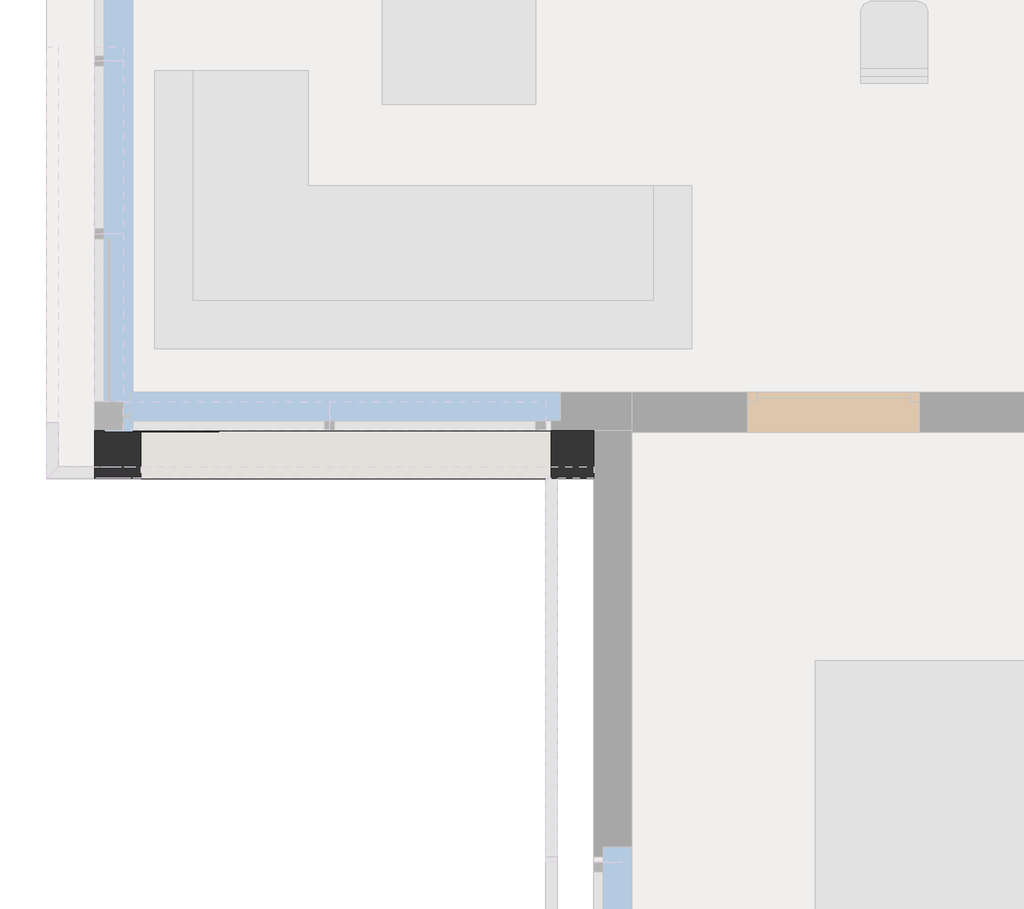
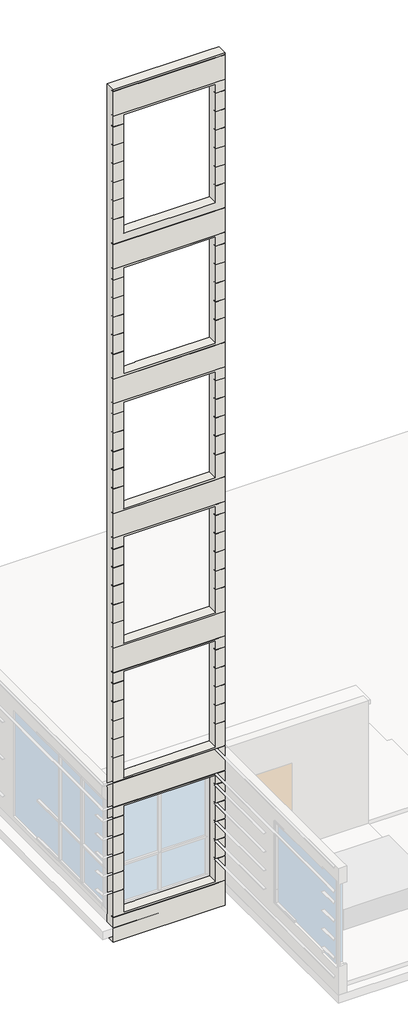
# One storey, part 2 of 14: 1 wall.
"""IFC4 building model written with IfcOpenShell, lengths in millimetres."""

from ifc_helpers import new_model, si_unit, origin, place, context, project, spatial, faceted_brep, element, save

model = new_model("IFC4")

# Units and contexts
model_context = context("Model", 3, world=origin())
ifc_project = project(units=[si_unit("LENGTHUNIT", "METRE", prefix="MILLI")], contexts=[model_context])

# Site, building, storey
site = spatial("IfcSite", under=ifc_project)
building = spatial("IfcBuilding", under=site)
storey = spatial("IfcBuildingStorey", under=building, Name="03_+7,700_Ж", Elevation=4500.0)

# Wall
placement = place(None, origin())
element("IfcWall", 1, ObjectType="BW_THR_EXT_180+60+10=250_эркер минплита под вентфасад и КГ-------", at=placement, inside=storey, context=model_context, shape_type="Brep", body=[
    faceted_brep([(126380.0000001, 115949.9999987, 3850.0), (128790.0000001, 115949.9999987, 3850.0), (128980.0000001, 115949.9999987, 3850.0), (128980.0000001, 115949.9999987, 4455.0), (128790.0000001, 115949.9999987, 4455.0), (128730.0000001, 115949.9999987, 4455.0), (126380.0000001, 115949.9999987, 4455.0), (128980.0000001, 115949.9999987, 24750.0), (128730.0000001, 115949.9999987, 24750.0), (126380.0000001, 115949.9999987, 24750.0), (126380.0000001, 115949.9999987, 24710.0), (128730.0000001, 115949.9999987, 24710.0), (128790.0000001, 115949.9999987, 24710.0), (128980.0000001, 115949.9999987, 24710.0), (126380.0000001, 115949.9999987, 7760.0), (128730.0000001, 115949.9999987, 7760.0), (128790.0000001, 115949.9999987, 7760.0), (128980.0000001, 115949.9999987, 7760.0), (128980.0000001, 115949.9999987, 8360.0), (128790.0000001, 115949.9999987, 8360.0), (128760.0000001, 115949.9999987, 8360.0), (128760.0000001, 115949.9999987, 7800.0), (126620.0000001, 115949.9999987, 7800.0), (126620.0000001, 115949.9999987, 8360.0), (126380.0000001, 115949.9999987, 8360.0), (126380.0000001, 115949.9999987, 11060.0), (128730.0000001, 115949.9999987, 11060.0), (128790.0000001, 115949.9999987, 11060.0), (128980.0000001, 115949.9999987, 11060.0), (128980.0000001, 115949.9999987, 11660.0), (128790.0000001, 115949.9999987, 11660.0), (128760.0000001, 115949.9999987, 11660.0), (128760.0000001, 115949.9999987, 11100.0), (126620.0000001, 115949.9999987, 11100.0), (126620.0000001, 115949.9999987, 11660.0), (126380.0000001, 115949.9999987, 11660.0), (126380.0000001, 115949.9999987, 14360.0), (128730.0000001, 115949.9999987, 14360.0), (128790.0000001, 115949.9999987, 14360.0), (128980.0000001, 115949.9999987, 14360.0), (128980.0000001, 115949.9999987, 14960.0), (128790.0000001, 115949.9999987, 14960.0), (128760.0000001, 115949.9999987, 14960.0), (128760.0000001, 115949.9999987, 14400.0), (126620.0000001, 115949.9999987, 14400.0), (126620.0000001, 115949.9999987, 14960.0), (126380.0000001, 115949.9999987, 14960.0), (126380.0000001, 115949.9999987, 17660.0), (128730.0000001, 115949.9999987, 17660.0), (128790.0000001, 115949.9999987, 17660.0), (128980.0000001, 115949.9999987, 17660.0), (128980.0000001, 115949.9999987, 18260.0), (128790.0000001, 115949.9999987, 18260.0), (128760.0000001, 115949.9999987, 18260.0), (128760.0000001, 115949.9999987, 17700.0), (126620.0000001, 115949.9999987, 17700.0), (126620.0000001, 115949.9999987, 18260.0), (126380.0000001, 115949.9999987, 18260.0), (126380.0000001, 115949.9999987, 20960.0), (128730.0000001, 115949.9999987, 20960.0), (128790.0000001, 115949.9999987, 20960.0), (128980.0000001, 115949.9999987, 20960.0), (128980.0000001, 115949.9999987, 21560.0), (128790.0000001, 115949.9999987, 21560.0), (128760.0000001, 115949.9999987, 21560.0), (128760.0000001, 115949.9999987, 21150.0), (126620.0000001, 115949.9999987, 21150.0), (126620.0000001, 115949.9999987, 21560.0), (126380.0000001, 115949.9999987, 21560.0), (128980.0000001, 115949.9999987, 24705.0), (128790.0000001, 115949.9999987, 24705.0), (128730.0000001, 115949.9999987, 24705.0), (126380.0000001, 115949.9999987, 24705.0), (126380.0000001, 115949.9999987, 24105.0), (128730.0000001, 115949.9999987, 24105.0), (128790.0000001, 115949.9999987, 24105.0), (128980.0000001, 115949.9999987, 24105.0), (128980.0000001, 115949.9999987, 24100.0), (128790.0000001, 115949.9999987, 24100.0), (128730.0000001, 115949.9999987, 24100.0), (126380.0000001, 115949.9999987, 24100.0), (126380.0000001, 115949.9999987, 23840.0), (126620.0000001, 115949.9999987, 23840.0), (126620.0000001, 115949.9999987, 24060.0), (128760.0000001, 115949.9999987, 24060.0), (128760.0000001, 115949.9999987, 23840.0), (128790.0000001, 115949.9999987, 23840.0), (128980.0000001, 115949.9999987, 23840.0), (128980.0000001, 115949.9999987, 20955.0), (128790.0000001, 115949.9999987, 20955.0), (128730.0000001, 115949.9999987, 20955.0), (126380.0000001, 115949.9999987, 20955.0), (126380.0000001, 115949.9999987, 20355.0), (128730.0000001, 115949.9999987, 20355.0), (128790.0000001, 115949.9999987, 20355.0), (128980.0000001, 115949.9999987, 20355.0), (128980.0000001, 115949.9999987, 20350.0), (128790.0000001, 115949.9999987, 20350.0), (128730.0000001, 115949.9999987, 20350.0), (126380.0000001, 115949.9999987, 20350.0), (126380.0000001, 115949.9999987, 20087.0), (126620.0000001, 115949.9999987, 20087.0), (126620.0000001, 115949.9999987, 20310.0), (128760.0000001, 115949.9999987, 20310.0), (128760.0000001, 115949.9999987, 20087.0), (128980.0000001, 115949.9999987, 20087.0), (128980.0000001, 115949.9999987, 17655.0), (128790.0000001, 115949.9999987, 17655.0), (128730.0000001, 115949.9999987, 17655.0), (126380.0000001, 115949.9999987, 17655.0), (126380.0000001, 115949.9999987, 17055.0), (128730.0000001, 115949.9999987, 17055.0), (128790.0000001, 115949.9999987, 17055.0), (128980.0000001, 115949.9999987, 17055.0), (128980.0000001, 115949.9999987, 17050.0), (128790.0000001, 115949.9999987, 17050.0), (128730.0000001, 115949.9999987, 17050.0), (126380.0000001, 115949.9999987, 17050.0), (126380.0000001, 115949.9999987, 16785.0), (126620.0000001, 115949.9999987, 16785.0), (126620.0000001, 115949.9999987, 17010.0), (128760.0000001, 115949.9999987, 17010.0), (128760.0000001, 115949.9999987, 16785.0), (128790.0000001, 115949.9999987, 16785.0), (128980.0000001, 115949.9999987, 16785.0), (128980.0000001, 115949.9999987, 14355.0), (128790.0000001, 115949.9999987, 14355.0), (128730.0000001, 115949.9999987, 14355.0), (126380.0000001, 115949.9999987, 14355.0), (126380.0000001, 115949.9999987, 13755.0), (128730.0000001, 115949.9999987, 13755.0), (128790.0000001, 115949.9999987, 13755.0), (128980.0000001, 115949.9999987, 13755.0), (128980.0000001, 115949.9999987, 13750.0), (128790.0000001, 115949.9999987, 13750.0), (128730.0000001, 115949.9999987, 13750.0), (126380.0000001, 115949.9999987, 13750.0), (126380.0000001, 115949.9999987, 13485.0), (126620.0000001, 115949.9999987, 13485.0), (126620.0000001, 115949.9999987, 13710.0), (128760.0000001, 115949.9999987, 13710.0), (128760.0000001, 115949.9999987, 13485.0), (128790.0000001, 115949.9999987, 13485.0), (128980.0000001, 115949.9999987, 13485.0), (128980.0000001, 115949.9999987, 11055.0), (128790.0000001, 115949.9999987, 11055.0), (128730.0000001, 115949.9999987, 11055.0), (126380.0000001, 115949.9999987, 11055.0), (126380.0000001, 115949.9999987, 10455.0), (128730.0000001, 115949.9999987, 10455.0), (128790.0000001, 115949.9999987, 10455.0), (128980.0000001, 115949.9999987, 10455.0), (128980.0000001, 115949.9999987, 10450.0), (128790.0000001, 115949.9999987, 10450.0), (128730.0000001, 115949.9999987, 10450.0), (126380.0000001, 115949.9999987, 10450.0), (126380.0000001, 115949.9999987, 10185.0), (126620.0000001, 115949.9999987, 10185.0), (126620.0000001, 115949.9999987, 10410.0), (128760.0000001, 115949.9999987, 10410.0), (128760.0000001, 115949.9999987, 10185.0), (128790.0000001, 115949.9999987, 10185.0), (128980.0000001, 115949.9999987, 10185.0), (128980.0000001, 115949.9999987, 7755.0), (128790.0000001, 115949.9999987, 7755.0), (128730.0000001, 115949.9999987, 7755.0), (126380.0000001, 115949.9999987, 7755.0), (126380.0000001, 115949.9999987, 7155.0), (128730.0000001, 115949.9999987, 7155.0), (128790.0000001, 115949.9999987, 7155.0), (128980.0000001, 115949.9999987, 7155.0), (128980.0000001, 115949.9999987, 7150.0), (128790.0000001, 115949.9999987, 7150.0), (128730.0000001, 115949.9999987, 7150.0), (126380.0000001, 115949.9999987, 7150.0), (126380.0000001, 115949.9999987, 6885.0), (126620.0000001, 115949.9999987, 6885.0), (126620.0000001, 115949.9999987, 7110.0), (128760.0000001, 115949.9999987, 7110.0), (128760.0000001, 115949.9999987, 6885.0), (128790.0000001, 115949.9999987, 6885.0), (128980.0000001, 115949.9999987, 6885.0), (128760.0000001, 115949.9999987, 4500.0), (126620.0000001, 115949.9999987, 4500.0), (126620.0000001, 115949.9999987, 5060.0), (126380.0000001, 115949.9999987, 5060.0), (126380.0000001, 115949.9999987, 4460.0), (128730.0000001, 115949.9999987, 4460.0), (128790.0000001, 115949.9999987, 4460.0), (128980.0000001, 115949.9999987, 4460.0), (128980.0000001, 115949.9999987, 5060.0), (128790.0000001, 115949.9999987, 5060.0), (128760.0000001, 115949.9999987, 5060.0), (126620.0000001, 115949.9999987, 23835.0), (126380.0000001, 115949.9999987, 23835.0), (126380.0000001, 115949.9999987, 23385.0), (126620.0000001, 115949.9999987, 23385.0), (126620.0000001, 115949.9999987, 23380.0), (126380.0000001, 115949.9999987, 23380.0), (126380.0000001, 115949.9999987, 22930.0), (126620.0000001, 115949.9999987, 22930.0), (126620.0000001, 115949.9999987, 22925.0), (126380.0000001, 115949.9999987, 22925.0), (126380.0000001, 115949.9999987, 22475.0), (126620.0000001, 115949.9999987, 22475.0), (126620.0000001, 115949.9999987, 22470.0), (126380.0000001, 115949.9999987, 22470.0), (126380.0000001, 115949.9999987, 22020.0), (126620.0000001, 115949.9999987, 22020.0), (126620.0000001, 115949.9999987, 22015.0), (126380.0000001, 115949.9999987, 22015.0), (126380.0000001, 115949.9999987, 21565.0), (126620.0000001, 115949.9999987, 21565.0), (128980.0000001, 115949.9999987, 20082.0), (128760.0000001, 115949.9999987, 20082.0), (128760.0000001, 115949.9999987, 19630.0), (128790.0000001, 115949.9999987, 19630.0), (128980.0000001, 115949.9999987, 19630.0), (126620.0000001, 115949.9999987, 20082.0), (126380.0000001, 115949.9999987, 20082.0), (126380.0000001, 115949.9999987, 19630.0), (126620.0000001, 115949.9999987, 19630.0), (126620.0000001, 115949.9999987, 19625.0), (126380.0000001, 115949.9999987, 19625.0), (126380.0000001, 115949.9999987, 19175.0), (126620.0000001, 115949.9999987, 19175.0), (126620.0000001, 115949.9999987, 19170.0), (126380.0000001, 115949.9999987, 19170.0), (126380.0000001, 115949.9999987, 18720.0), (126620.0000001, 115949.9999987, 18720.0), (126620.0000001, 115949.9999987, 18715.0), (126380.0000001, 115949.9999987, 18715.0), (126380.0000001, 115949.9999987, 18265.0), (126620.0000001, 115949.9999987, 18265.0), (126620.0000001, 115949.9999987, 16780.0), (126380.0000001, 115949.9999987, 16780.0), (126380.0000001, 115949.9999987, 16330.0), (126620.0000001, 115949.9999987, 16330.0), (126620.0000001, 115949.9999987, 16325.0), (126380.0000001, 115949.9999987, 16325.0), (126380.0000001, 115949.9999987, 15875.0), (126620.0000001, 115949.9999987, 15875.0), (126620.0000001, 115949.9999987, 15870.0), (126380.0000001, 115949.9999987, 15870.0), (126380.0000001, 115949.9999987, 15420.0), (126620.0000001, 115949.9999987, 15420.0), (126620.0000001, 115949.9999987, 15415.0), (126380.0000001, 115949.9999987, 15415.0), (126380.0000001, 115949.9999987, 14965.0), (126620.0000001, 115949.9999987, 14965.0), (126620.0000001, 115949.9999987, 13480.0), (126380.0000001, 115949.9999987, 13480.0), (126380.0000001, 115949.9999987, 13030.0), (126620.0000001, 115949.9999987, 13030.0), (126620.0000001, 115949.9999987, 13025.0), (126380.0000001, 115949.9999987, 13025.0), (126380.0000001, 115949.9999987, 12575.0), (126620.0000001, 115949.9999987, 12575.0), (126620.0000001, 115949.9999987, 12570.0), (126380.0000001, 115949.9999987, 12570.0), (126380.0000001, 115949.9999987, 12120.0), (126620.0000001, 115949.9999987, 12120.0), (126620.0000001, 115949.9999987, 12115.0), (126380.0000001, 115949.9999987, 12115.0), (126380.0000001, 115949.9999987, 11665.0), (126620.0000001, 115949.9999987, 11665.0), (126620.0000001, 115949.9999987, 10180.0), (126380.0000001, 115949.9999987, 10180.0), (126380.0000001, 115949.9999987, 9730.0), (126620.0000001, 115949.9999987, 9730.0), (126620.0000001, 115949.9999987, 9725.0), (126380.0000001, 115949.9999987, 9725.0), (126380.0000001, 115949.9999987, 9275.0), (126620.0000001, 115949.9999987, 9275.0), (126620.0000001, 115949.9999987, 9270.0), (126380.0000001, 115949.9999987, 9270.0), (126380.0000001, 115949.9999987, 8820.0), (126620.0000001, 115949.9999987, 8820.0), (126620.0000001, 115949.9999987, 8815.0), (126380.0000001, 115949.9999987, 8815.0), (126380.0000001, 115949.9999987, 8365.0), (126620.0000001, 115949.9999987, 8365.0), (126620.0000001, 115949.9999987, 6880.0), (126380.0000001, 115949.9999987, 6880.0), (126380.0000001, 115949.9999987, 6430.0), (126620.0000001, 115949.9999987, 6430.0), (126620.0000001, 115949.9999987, 6425.0), (126380.0000001, 115949.9999987, 6425.0), (126380.0000001, 115949.9999987, 5975.0), (126620.0000001, 115949.9999987, 5975.0), (126620.0000001, 115949.9999987, 5970.0), (126380.0000001, 115949.9999987, 5970.0), (126380.0000001, 115949.9999987, 5520.0), (126620.0000001, 115949.9999987, 5520.0), (126620.0000001, 115949.9999987, 5515.0), (126380.0000001, 115949.9999987, 5515.0), (126380.0000001, 115949.9999987, 5065.0), (126620.0000001, 115949.9999987, 5065.0), (128980.0000001, 115949.9999987, 23835.0), (128790.0000001, 115949.9999987, 23835.0), (128760.0000001, 115949.9999987, 23835.0), (128760.0000001, 115949.9999987, 23385.0), (128790.0000001, 115949.9999987, 23385.0), (128980.0000001, 115949.9999987, 23385.0), (128980.0000001, 115949.9999987, 23380.0), (128790.0000001, 115949.9999987, 23380.0), (128760.0000001, 115949.9999987, 23380.0), (128760.0000001, 115949.9999987, 22930.0), (128790.0000001, 115949.9999987, 22930.0), (128980.0000001, 115949.9999987, 22930.0), (128980.0000001, 115949.9999987, 22925.0), (128790.0000001, 115949.9999987, 22925.0), (128760.0000001, 115949.9999987, 22925.0), (128760.0000001, 115949.9999987, 22475.0), (128790.0000001, 115949.9999987, 22475.0), (128980.0000001, 115949.9999987, 22475.0), (128980.0000001, 115949.9999987, 22470.0), (128790.0000001, 115949.9999987, 22470.0), (128760.0000001, 115949.9999987, 22470.0), (128760.0000001, 115949.9999987, 22020.0), (128790.0000001, 115949.9999987, 22020.0), (128980.0000001, 115949.9999987, 22020.0), (128980.0000001, 115949.9999987, 22015.0), (128790.0000001, 115949.9999987, 22015.0), (128760.0000001, 115949.9999987, 22015.0), (128760.0000001, 115949.9999987, 21565.0), (128790.0000001, 115949.9999987, 21565.0), (128980.0000001, 115949.9999987, 21565.0), (128980.0000001, 115949.9999987, 19625.0), (128790.0000001, 115949.9999987, 19625.0), (128760.0000001, 115949.9999987, 19625.0), (128760.0000001, 115949.9999987, 19175.0), (128790.0000001, 115949.9999987, 19175.0), (128980.0000001, 115949.9999987, 19175.0), (128980.0000001, 115949.9999987, 19170.0), (128790.0000001, 115949.9999987, 19170.0), (128760.0000001, 115949.9999987, 19170.0), (128760.0000001, 115949.9999987, 18720.0), (128790.0000001, 115949.9999987, 18720.0), (128980.0000001, 115949.9999987, 18720.0), (128980.0000001, 115949.9999987, 18715.0), (128790.0000001, 115949.9999987, 18715.0), (128760.0000001, 115949.9999987, 18715.0), (128760.0000001, 115949.9999987, 18265.0), (128790.0000001, 115949.9999987, 18265.0), (128980.0000001, 115949.9999987, 18265.0), (128980.0000001, 115949.9999987, 16780.0), (128790.0000001, 115949.9999987, 16780.0), (128760.0000001, 115949.9999987, 16780.0), (128760.0000001, 115949.9999987, 16330.0), (128790.0000001, 115949.9999987, 16330.0), (128980.0000001, 115949.9999987, 16330.0), (128980.0000001, 115949.9999987, 16325.0), (128790.0000001, 115949.9999987, 16325.0), (128760.0000001, 115949.9999987, 16325.0), (128760.0000001, 115949.9999987, 15875.0), (128790.0000001, 115949.9999987, 15875.0), (128980.0000001, 115949.9999987, 15875.0), (128980.0000001, 115949.9999987, 15870.0), (128790.0000001, 115949.9999987, 15870.0), (128760.0000001, 115949.9999987, 15870.0), (128760.0000001, 115949.9999987, 15420.0), (128790.0000001, 115949.9999987, 15420.0), (128980.0000001, 115949.9999987, 15420.0), (128980.0000001, 115949.9999987, 15415.0), (128790.0000001, 115949.9999987, 15415.0), (128760.0000001, 115949.9999987, 15415.0), (128760.0000001, 115949.9999987, 14965.0), (128790.0000001, 115949.9999987, 14965.0), (128980.0000001, 115949.9999987, 14965.0), (128980.0000001, 115949.9999987, 13480.0), (128790.0000001, 115949.9999987, 13480.0), (128760.0000001, 115949.9999987, 13480.0), (128760.0000001, 115949.9999987, 13030.0), (128790.0000001, 115949.9999987, 13030.0), (128980.0000001, 115949.9999987, 13030.0), (128980.0000001, 115949.9999987, 13025.0), (128790.0000001, 115949.9999987, 13025.0), (128760.0000001, 115949.9999987, 13025.0), (128760.0000001, 115949.9999987, 12575.0), (128790.0000001, 115949.9999987, 12575.0), (128980.0000001, 115949.9999987, 12575.0), (128980.0000001, 115949.9999987, 12570.0), (128790.0000001, 115949.9999987, 12570.0), (128760.0000001, 115949.9999987, 12570.0), (128760.0000001, 115949.9999987, 12120.0), (128790.0000001, 115949.9999987, 12120.0), (128980.0000001, 115949.9999987, 12120.0), (128980.0000001, 115949.9999987, 12115.0), (128790.0000001, 115949.9999987, 12115.0), (128760.0000001, 115949.9999987, 12115.0), (128760.0000001, 115949.9999987, 11665.0), (128790.0000001, 115949.9999987, 11665.0), (128980.0000001, 115949.9999987, 11665.0), (128980.0000001, 115949.9999987, 10180.0), (128790.0000001, 115949.9999987, 10180.0), (128760.0000001, 115949.9999987, 10180.0), (128760.0000001, 115949.9999987, 9730.0), (128790.0000001, 115949.9999987, 9730.0), (128980.0000001, 115949.9999987, 9730.0), (128980.0000001, 115949.9999987, 9725.0), (128790.0000001, 115949.9999987, 9725.0), (128760.0000001, 115949.9999987, 9725.0), (128760.0000001, 115949.9999987, 9275.0), (128790.0000001, 115949.9999987, 9275.0), (128980.0000001, 115949.9999987, 9275.0), (128980.0000001, 115949.9999987, 9270.0), (128790.0000001, 115949.9999987, 9270.0), (128760.0000001, 115949.9999987, 9270.0), (128760.0000001, 115949.9999987, 8820.0), (128790.0000001, 115949.9999987, 8820.0), (128980.0000001, 115949.9999987, 8820.0), (128980.0000001, 115949.9999987, 8815.0), (128790.0000001, 115949.9999987, 8815.0), (128760.0000001, 115949.9999987, 8815.0), (128760.0000001, 115949.9999987, 8365.0), (128790.0000001, 115949.9999987, 8365.0), (128980.0000001, 115949.9999987, 8365.0), (128980.0000001, 115949.9999987, 6880.0), (128790.0000001, 115949.9999987, 6880.0), (128760.0000001, 115949.9999987, 6880.0), (128760.0000001, 115949.9999987, 6430.0), (128790.0000001, 115949.9999987, 6430.0), (128980.0000001, 115949.9999987, 6430.0), (128980.0000001, 115949.9999987, 6425.0), (128790.0000001, 115949.9999987, 6425.0), (128760.0000001, 115949.9999987, 6425.0), (128760.0000001, 115949.9999987, 5975.0), (128790.0000001, 115949.9999987, 5975.0), (128980.0000001, 115949.9999987, 5975.0), (128980.0000001, 115949.9999987, 5970.0), (128790.0000001, 115949.9999987, 5970.0), (128760.0000001, 115949.9999987, 5970.0), (128760.0000001, 115949.9999987, 5520.0), (128790.0000001, 115949.9999987, 5520.0), (128980.0000001, 115949.9999987, 5520.0), (128980.0000001, 115949.9999987, 5515.0), (128790.0000001, 115949.9999987, 5515.0), (128760.0000001, 115949.9999987, 5515.0), (128760.0000001, 115949.9999987, 5065.0), (128790.0000001, 115949.9999987, 5065.0), (128980.0000001, 115949.9999987, 5065.0), (128980.0000001, 116199.9999987, 3850.0), (128790.0000001, 116199.9999987, 3850.0), (126380.0000001, 116199.9999987, 3850.0), (126380.0000001, 116199.9999987, 4400.0), (126380.0000001, 116199.9999987, 7500.0), (126380.0000001, 116199.9999987, 7700.0), (126380.0000001, 116199.9999987, 10800.0), (126380.0000001, 116199.9999987, 11000.0), (126380.0000001, 116199.9999987, 14100.0), (126380.0000001, 116199.9999987, 14300.0), (126380.0000001, 116199.9999987, 17400.0), (126380.0000001, 116199.9999987, 17600.0), (126380.0000001, 116199.9999987, 20700.0), (126380.0000001, 116199.9999987, 20900.0), (126380.0000001, 116199.9999987, 24300.0), (126380.0000001, 116199.9999987, 24750.0), (128730.0000001, 116199.9999987, 24750.0), (128980.0000001, 116199.9999987, 24750.0), (128980.0000001, 116199.9999987, 24500.0), (128980.0000001, 116199.9999987, 4200.0), (128760.0000001, 116199.9999987, 4500.0), (128760.0000001, 116199.9999987, 7110.0), (127030.0000001, 116199.9999987, 7110.0), (127030.0000001, 116199.9999987, 7160.0), (126430.0000001, 116199.9999987, 7160.0), (126430.0000001, 116199.9999987, 4440.0), (127030.0000001, 116199.9999987, 4440.0), (127030.0000001, 116199.9999987, 4500.0), (126430.0000001, 116199.9999987, 10460.0), (126430.0000001, 116199.9999987, 7740.0), (127030.0000001, 116199.9999987, 7740.0), (127030.0000001, 116199.9999987, 7800.0), (128760.0000001, 116199.9999987, 7800.0), (128760.0000001, 116199.9999987, 10410.0), (127030.0000001, 116199.9999987, 10410.0), (127030.0000001, 116199.9999987, 10460.0), (126430.0000001, 116199.9999987, 13760.0), (126430.0000001, 116199.9999987, 11040.0), (127030.0000001, 116199.9999987, 11040.0), (127030.0000001, 116199.9999987, 11100.0), (128760.0000001, 116199.9999987, 11100.0), (128760.0000001, 116199.9999987, 13710.0), (127030.0000001, 116199.9999987, 13710.0), (127030.0000001, 116199.9999987, 13760.0), (126430.0000001, 116199.9999987, 17060.0), (126430.0000001, 116199.9999987, 14340.0), (127030.0000001, 116199.9999987, 14340.0), (127030.0000001, 116199.9999987, 14400.0), (128760.0000001, 116199.9999987, 14400.0), (128760.0000001, 116199.9999987, 17010.0), (127030.0000001, 116199.9999987, 17010.0), (127030.0000001, 116199.9999987, 17060.0), (126430.0000001, 116199.9999987, 20360.0), (126430.0000001, 116199.9999987, 17640.0), (127030.0000001, 116199.9999987, 17640.0), (127030.0000001, 116199.9999987, 17700.0), (128760.0000001, 116199.9999987, 17700.0), (128760.0000001, 116199.9999987, 20310.0), (127030.0000001, 116199.9999987, 20310.0), (127030.0000001, 116199.9999987, 20360.0), (128760.0000001, 116199.9999987, 21150.0), (128760.0000001, 116199.9999987, 24060.0), (127030.0000001, 116199.9999987, 24060.0), (127030.0000001, 116199.9999987, 24110.0), (126430.0000001, 116199.9999987, 24110.0), (126430.0000001, 116199.9999987, 21090.0), (127030.0000001, 116199.9999987, 21090.0), (127030.0000001, 116199.9999987, 21150.0), (128980.0000001, 116074.9999987, 3850.0), (128980.0000001, 116074.9999987, 24750.0), (128980.0000001, 116009.9999987, 24710.0), (128980.0000001, 116009.9999987, 24705.0), (128980.0000001, 116009.9999987, 24105.0), (128980.0000001, 116009.9999987, 24100.0), (128980.0000001, 116009.9999987, 23840.0), (128980.0000001, 116009.9999987, 23835.0), (128980.0000001, 116009.9999987, 23385.0), (128980.0000001, 116009.9999987, 23380.0), (128980.0000001, 116009.9999987, 22930.0), (128980.0000001, 116009.9999987, 22925.0), (128980.0000001, 116009.9999987, 22475.0), (128980.0000001, 116009.9999987, 22470.0), (128980.0000001, 116009.9999987, 22020.0), (128980.0000001, 116009.9999987, 22015.0), (128980.0000001, 116009.9999987, 21565.0), (128980.0000001, 116009.9999987, 21560.0), (128980.0000001, 116009.9999987, 20960.0), (128980.0000001, 116009.9999987, 20955.0), (128980.0000001, 116009.9999987, 20355.0), (128980.0000001, 116009.9999987, 20350.0), (128980.0000001, 116009.9999987, 20087.0), (128980.0000001, 116009.9999987, 20082.0), (128980.0000001, 116009.9999987, 19630.0), (128980.0000001, 116009.9999987, 19625.0), (128980.0000001, 116009.9999987, 19175.0), (128980.0000001, 116009.9999987, 19170.0), (128980.0000001, 116009.9999987, 18720.0), (128980.0000001, 116009.9999987, 18715.0), (128980.0000001, 116009.9999987, 18265.0), (128980.0000001, 116009.9999987, 18260.0), (128980.0000001, 116009.9999987, 17660.0), (128980.0000001, 116009.9999987, 17655.0), (128980.0000001, 116009.9999987, 17055.0), (128980.0000001, 116009.9999987, 17050.0), (128980.0000001, 116009.9999987, 16785.0), (128980.0000001, 116009.9999987, 16780.0), (128980.0000001, 116009.9999987, 16330.0), (128980.0000001, 116009.9999987, 16325.0), (128980.0000001, 116009.9999987, 15875.0), (128980.0000001, 116009.9999987, 15870.0), (128980.0000001, 116009.9999987, 15420.0), (128980.0000001, 116009.9999987, 15415.0), (128980.0000001, 116009.9999987, 14965.0), (128980.0000001, 116009.9999987, 14960.0), (128980.0000001, 116009.9999987, 14360.0), (128980.0000001, 116009.9999987, 14355.0), (128980.0000001, 116009.9999987, 13755.0), (128980.0000001, 116009.9999987, 13750.0), (128980.0000001, 116009.9999987, 13485.0), (128980.0000001, 116009.9999987, 13480.0), (128980.0000001, 116009.9999987, 13030.0), (128980.0000001, 116009.9999987, 13025.0), (128980.0000001, 116009.9999987, 12575.0), (128980.0000001, 116009.9999987, 12570.0), (128980.0000001, 116009.9999987, 12120.0), (128980.0000001, 116009.9999987, 12115.0), (128980.0000001, 116009.9999987, 11665.0), (128980.0000001, 116009.9999987, 11660.0), (128980.0000001, 116009.9999987, 11060.0), (128980.0000001, 116009.9999987, 11055.0), (128980.0000001, 116009.9999987, 10455.0), (128980.0000001, 116009.9999987, 10450.0), (128980.0000001, 116009.9999987, 10185.0), (128980.0000001, 116009.9999987, 10180.0), (128980.0000001, 116009.9999987, 9730.0), (128980.0000001, 116009.9999987, 9725.0), (128980.0000001, 116009.9999987, 9275.0), (128980.0000001, 116009.9999987, 9270.0), (128980.0000001, 116009.9999987, 8820.0), (128980.0000001, 116009.9999987, 8815.0), (128980.0000001, 116009.9999987, 8365.0), (128980.0000001, 116009.9999987, 8360.0), (128980.0000001, 116009.9999987, 7760.0), (128980.0000001, 116009.9999987, 7755.0), (128980.0000001, 116009.9999987, 7155.0), (128980.0000001, 116009.9999987, 7150.0), (128980.0000001, 116009.9999987, 6885.0), (128980.0000001, 116009.9999987, 6880.0), (128980.0000001, 116009.9999987, 6430.0), (128980.0000001, 116009.9999987, 6425.0), (128980.0000001, 116009.9999987, 5975.0), (128980.0000001, 116009.9999987, 5970.0), (128980.0000001, 116009.9999987, 5520.0), (128980.0000001, 116009.9999987, 5515.0), (128980.0000001, 116009.9999987, 5065.0), (128980.0000001, 116009.9999987, 5060.0), (128980.0000001, 116009.9999987, 4460.0), (128980.0000001, 116009.9999987, 4455.0), (126380.0000001, 116009.9999987, 4455.0), (126380.0000001, 116009.9999987, 4460.0), (126380.0000001, 116009.9999987, 5060.0), (126380.0000001, 116009.9999987, 5065.0), (126380.0000001, 116009.9999987, 5515.0), (126380.0000001, 116009.9999987, 5520.0), (126380.0000001, 116009.9999987, 5970.0), (126380.0000001, 116009.9999987, 5975.0), (126380.0000001, 116009.9999987, 6425.0), (126380.0000001, 116009.9999987, 6430.0), (126380.0000001, 116009.9999987, 6880.0), (126380.0000001, 116009.9999987, 6885.0), (126380.0000001, 116009.9999987, 7150.0), (126380.0000001, 116009.9999987, 7155.0), (126380.0000001, 116009.9999987, 7755.0), (126380.0000001, 116009.9999987, 7760.0), (126380.0000001, 116009.9999987, 8360.0), (126380.0000001, 116009.9999987, 8365.0), (126380.0000001, 116009.9999987, 8815.0), (126380.0000001, 116009.9999987, 8820.0), (126380.0000001, 116009.9999987, 9270.0), (126380.0000001, 116009.9999987, 9275.0), (126380.0000001, 116009.9999987, 9725.0), (126380.0000001, 116009.9999987, 9730.0), (126380.0000001, 116009.9999987, 10180.0), (126380.0000001, 116009.9999987, 10185.0), (126380.0000001, 116009.9999987, 10450.0), (126380.0000001, 116009.9999987, 10455.0), (126380.0000001, 116009.9999987, 11055.0), (126380.0000001, 116009.9999987, 11060.0), (126380.0000001, 116009.9999987, 11660.0), (126380.0000001, 116009.9999987, 11665.0), (126380.0000001, 116009.9999987, 12115.0), (126380.0000001, 116009.9999987, 12120.0), (126380.0000001, 116009.9999987, 12570.0), (126380.0000001, 116009.9999987, 12575.0), (126380.0000001, 116009.9999987, 13025.0), (126380.0000001, 116009.9999987, 13030.0), (126380.0000001, 116009.9999987, 13480.0), (126380.0000001, 116009.9999987, 13485.0), (126380.0000001, 116009.9999987, 13750.0), (126380.0000001, 116009.9999987, 13755.0), (126380.0000001, 116009.9999987, 14355.0), (126380.0000001, 116009.9999987, 14360.0), (126380.0000001, 116009.9999987, 14960.0), (126380.0000001, 116009.9999987, 14965.0), (126380.0000001, 116009.9999987, 15415.0), (126380.0000001, 116009.9999987, 15420.0), (126380.0000001, 116009.9999987, 15870.0), (126380.0000001, 116009.9999987, 15875.0), (126380.0000001, 116009.9999987, 16325.0), (126380.0000001, 116009.9999987, 16330.0), (126380.0000001, 116009.9999987, 16780.0), (126380.0000001, 116009.9999987, 16785.0), (126380.0000001, 116009.9999987, 17050.0), (126380.0000001, 116009.9999987, 17055.0), (126380.0000001, 116009.9999987, 17655.0), (126380.0000001, 116009.9999987, 17660.0), (126380.0000001, 116009.9999987, 18260.0), (126380.0000001, 116009.9999987, 18265.0), (126380.0000001, 116009.9999987, 18715.0), (126380.0000001, 116009.9999987, 18720.0), (126380.0000001, 116009.9999987, 19170.0), (126380.0000001, 116009.9999987, 19175.0), (126380.0000001, 116009.9999987, 19625.0), (126380.0000001, 116009.9999987, 19630.0), (126380.0000001, 116009.9999987, 20082.0), (126380.0000001, 116009.9999987, 20087.0), (126380.0000001, 116009.9999987, 20350.0), (126380.0000001, 116009.9999987, 20355.0), (126380.0000001, 116009.9999987, 20955.0), (126380.0000001, 116009.9999987, 20960.0), (126380.0000001, 116009.9999987, 21560.0), (126380.0000001, 116009.9999987, 21565.0), (126380.0000001, 116009.9999987, 22015.0), (126380.0000001, 116009.9999987, 22020.0), (126380.0000001, 116009.9999987, 22470.0), (126380.0000001, 116009.9999987, 22475.0), (126380.0000001, 116009.9999987, 22925.0), (126380.0000001, 116009.9999987, 22930.0), (126380.0000001, 116009.9999987, 23380.0), (126380.0000001, 116009.9999987, 23385.0), (126380.0000001, 116009.9999987, 23835.0), (126380.0000001, 116009.9999987, 23840.0), (126380.0000001, 116009.9999987, 24100.0), (126380.0000001, 116009.9999987, 24105.0), (126380.0000001, 116009.9999987, 24705.0), (126380.0000001, 116009.9999987, 24710.0), (126620.0000001, 116009.9999987, 23835.0), (126620.0000001, 116009.9999987, 23840.0), (126620.0000001, 116009.9999987, 23385.0), (126620.0000001, 116009.9999987, 23380.0), (126620.0000001, 116009.9999987, 22930.0), (126620.0000001, 116009.9999987, 22925.0), (126620.0000001, 116009.9999987, 22475.0), (126620.0000001, 116009.9999987, 22470.0), (126620.0000001, 116009.9999987, 22020.0), (126620.0000001, 116009.9999987, 22015.0), (126620.0000001, 116009.9999987, 21565.0), (126620.0000001, 116009.9999987, 21560.0), (126620.0000001, 116009.9999987, 20082.0), (126620.0000001, 116009.9999987, 20087.0), (126620.0000001, 116009.9999987, 19625.0), (126620.0000001, 116009.9999987, 19630.0), (126620.0000001, 116009.9999987, 19170.0), (126620.0000001, 116009.9999987, 19175.0), (126620.0000001, 116009.9999987, 18715.0), (126620.0000001, 116009.9999987, 18720.0), (126620.0000001, 116009.9999987, 18260.0), (126620.0000001, 116009.9999987, 18265.0), (126620.0000001, 116009.9999987, 16780.0), (126620.0000001, 116009.9999987, 16785.0), (126620.0000001, 116009.9999987, 16325.0), (126620.0000001, 116009.9999987, 16330.0), (126620.0000001, 116009.9999987, 15870.0), (126620.0000001, 116009.9999987, 15875.0), (126620.0000001, 116009.9999987, 15415.0), (126620.0000001, 116009.9999987, 15420.0), (126620.0000001, 116009.9999987, 14960.0), (126620.0000001, 116009.9999987, 14965.0), (126620.0000001, 116009.9999987, 13480.0), (126620.0000001, 116009.9999987, 13485.0), (126620.0000001, 116009.9999987, 13025.0), (126620.0000001, 116009.9999987, 13030.0), (126620.0000001, 116009.9999987, 12570.0), (126620.0000001, 116009.9999987, 12575.0), (126620.0000001, 116009.9999987, 12115.0), (126620.0000001, 116009.9999987, 12120.0), (126620.0000001, 116009.9999987, 11660.0), (126620.0000001, 116009.9999987, 11665.0), (126620.0000001, 116009.9999987, 10180.0), (126620.0000001, 116009.9999987, 10185.0), (126620.0000001, 116009.9999987, 9725.0), (126620.0000001, 116009.9999987, 9730.0), (126620.0000001, 116009.9999987, 9270.0), (126620.0000001, 116009.9999987, 9275.0), (126620.0000001, 116009.9999987, 8815.0), (126620.0000001, 116009.9999987, 8820.0), (126620.0000001, 116009.9999987, 8360.0), (126620.0000001, 116009.9999987, 8365.0), (126620.0000001, 116009.9999987, 6880.0), (126620.0000001, 116009.9999987, 6885.0), (126620.0000001, 116009.9999987, 6425.0), (126620.0000001, 116009.9999987, 6430.0), (126620.0000001, 116009.9999987, 5970.0), (126620.0000001, 116009.9999987, 5975.0), (126620.0000001, 116009.9999987, 5515.0), (126620.0000001, 116009.9999987, 5520.0), (126620.0000001, 116009.9999987, 5060.0), (126620.0000001, 116009.9999987, 5065.0), (126620.0000001, 116189.9999987, 7110.0), (127030.0000001, 116189.9999987, 7110.0), (128760.0000001, 116009.9999987, 5060.0), (128760.0000001, 116009.9999987, 5065.0), (128760.0000001, 116009.9999987, 5515.0), (128760.0000001, 116009.9999987, 5520.0), (128760.0000001, 116009.9999987, 5970.0), (128760.0000001, 116009.9999987, 5975.0), (128760.0000001, 116009.9999987, 6425.0), (128760.0000001, 116009.9999987, 6430.0), (128760.0000001, 116009.9999987, 6880.0), (128760.0000001, 116009.9999987, 6885.0), (127030.0000001, 116189.9999987, 4500.0), (126620.0000001, 116189.9999987, 4500.0), (127030.0000001, 116189.9999987, 7160.0), (127030.0000001, 116189.9999987, 4440.0), (126430.0000001, 116189.9999987, 7160.0), (126430.0000001, 116189.9999987, 4440.0), (126620.0000001, 116189.9999987, 24060.0), (127030.0000001, 116189.9999987, 24060.0), (128760.0000001, 116009.9999987, 21560.0), (128760.0000001, 116009.9999987, 21565.0), (128760.0000001, 116009.9999987, 22015.0), (128760.0000001, 116009.9999987, 22020.0), (128760.0000001, 116009.9999987, 22470.0), (128760.0000001, 116009.9999987, 22475.0), (128760.0000001, 116009.9999987, 22925.0), (128760.0000001, 116009.9999987, 22930.0), (128760.0000001, 116009.9999987, 23380.0), (128760.0000001, 116009.9999987, 23385.0), (128760.0000001, 116009.9999987, 23835.0), (128760.0000001, 116009.9999987, 23840.0), (127030.0000001, 116189.9999987, 21150.0), (126620.0000001, 116189.9999987, 21150.0), (127030.0000001, 116189.9999987, 24110.0), (127030.0000001, 116189.9999987, 21090.0), (126430.0000001, 116189.9999987, 24110.0), (126430.0000001, 116189.9999987, 21090.0), (127030.0000001, 116189.9999987, 10460.0), (127030.0000001, 116189.9999987, 10410.0), (127030.0000001, 116189.9999987, 7740.0), (127030.0000001, 116189.9999987, 7800.0), (126430.0000001, 116189.9999987, 10460.0), (126430.0000001, 116189.9999987, 7740.0), (126620.0000001, 116189.9999987, 10410.0), (126620.0000001, 116189.9999987, 7800.0), (128760.0000001, 116009.9999987, 8360.0), (128760.0000001, 116009.9999987, 8365.0), (128760.0000001, 116009.9999987, 8815.0), (128760.0000001, 116009.9999987, 8820.0), (128760.0000001, 116009.9999987, 9270.0), (128760.0000001, 116009.9999987, 9275.0), (128760.0000001, 116009.9999987, 9725.0), (128760.0000001, 116009.9999987, 9730.0), (128760.0000001, 116009.9999987, 10180.0), (128760.0000001, 116009.9999987, 10185.0), (127030.0000001, 116189.9999987, 13760.0), (127030.0000001, 116189.9999987, 13710.0), (127030.0000001, 116189.9999987, 11040.0), (127030.0000001, 116189.9999987, 11100.0), (126430.0000001, 116189.9999987, 13760.0), (126430.0000001, 116189.9999987, 11040.0), (126620.0000001, 116189.9999987, 13710.0), (126620.0000001, 116189.9999987, 11100.0), (128760.0000001, 116009.9999987, 11660.0), (128760.0000001, 116009.9999987, 11665.0), (128760.0000001, 116009.9999987, 12115.0), (128760.0000001, 116009.9999987, 12120.0), (128760.0000001, 116009.9999987, 12570.0), (128760.0000001, 116009.9999987, 12575.0), (128760.0000001, 116009.9999987, 13025.0), (128760.0000001, 116009.9999987, 13030.0), (128760.0000001, 116009.9999987, 13480.0), (128760.0000001, 116009.9999987, 13485.0), (127030.0000001, 116189.9999987, 17060.0), (127030.0000001, 116189.9999987, 17010.0), (127030.0000001, 116189.9999987, 14340.0), (127030.0000001, 116189.9999987, 14400.0), (126430.0000001, 116189.9999987, 17060.0), (126430.0000001, 116189.9999987, 14340.0), (126620.0000001, 116189.9999987, 17010.0), (126620.0000001, 116189.9999987, 14400.0), (128760.0000001, 116009.9999987, 14960.0), (128760.0000001, 116009.9999987, 14965.0), (128760.0000001, 116009.9999987, 15415.0), (128760.0000001, 116009.9999987, 15420.0), (128760.0000001, 116009.9999987, 15870.0), (128760.0000001, 116009.9999987, 15875.0), (128760.0000001, 116009.9999987, 16325.0), (128760.0000001, 116009.9999987, 16330.0), (128760.0000001, 116009.9999987, 16780.0), (128760.0000001, 116009.9999987, 16785.0), (127030.0000001, 116189.9999987, 20360.0), (127030.0000001, 116189.9999987, 20310.0), (127030.0000001, 116189.9999987, 17640.0), (127030.0000001, 116189.9999987, 17700.0), (126430.0000001, 116189.9999987, 20360.0), (126430.0000001, 116189.9999987, 17640.0), (126620.0000001, 116189.9999987, 20310.0), (126620.0000001, 116189.9999987, 17700.0), (128760.0000001, 116009.9999987, 18260.0), (128760.0000001, 116009.9999987, 18265.0), (128760.0000001, 116009.9999987, 18715.0), (128760.0000001, 116009.9999987, 18720.0), (128760.0000001, 116009.9999987, 19170.0), (128760.0000001, 116009.9999987, 19175.0), (128760.0000001, 116009.9999987, 19625.0), (128760.0000001, 116009.9999987, 19630.0), (128760.0000001, 116009.9999987, 20082.0), (128760.0000001, 116009.9999987, 20087.0)], [[[0, 1, 2, 3, 4, 5, 6]], [[7, 8, 9, 10, 11, 12, 13]], [[14, 15, 16, 17, 18, 19, 20, 21, 22, 23, 24]], [[25, 26, 27, 28, 29, 30, 31, 32, 33, 34, 35]], [[36, 37, 38, 39, 40, 41, 42, 43, 44, 45, 46]], [[47, 48, 49, 50, 51, 52, 53, 54, 55, 56, 57]], [[58, 59, 60, 61, 62, 63, 64, 65, 66, 67, 68]], [[69, 70, 71, 72, 73, 74, 75, 76]], [[77, 78, 79, 80, 81, 82, 83, 84, 85, 86, 87]], [[88, 89, 90, 91, 92, 93, 94, 95]], [[96, 97, 98, 99, 100, 101, 102, 103, 104, 105]], [[106, 107, 108, 109, 110, 111, 112, 113]], [[114, 115, 116, 117, 118, 119, 120, 121, 122, 123, 124]], [[125, 126, 127, 128, 129, 130, 131, 132]], [[133, 134, 135, 136, 137, 138, 139, 140, 141, 142, 143]], [[144, 145, 146, 147, 148, 149, 150, 151]], [[152, 153, 154, 155, 156, 157, 158, 159, 160, 161, 162]], [[163, 164, 165, 166, 167, 168, 169, 170]], [[171, 172, 173, 174, 175, 176, 177, 178, 179, 180, 181]], [[182, 183, 184, 185, 186, 187, 188, 189, 190, 191, 192]], [[193, 194, 195, 196]], [[197, 198, 199, 200]], [[201, 202, 203, 204]], [[205, 206, 207, 208]], [[209, 210, 211, 212]], [[213, 214, 215, 216, 217]], [[218, 219, 220, 221]], [[222, 223, 224, 225]], [[226, 227, 228, 229]], [[230, 231, 232, 233]], [[234, 235, 236, 237]], [[238, 239, 240, 241]], [[242, 243, 244, 245]], [[246, 247, 248, 249]], [[250, 251, 252, 253]], [[254, 255, 256, 257]], [[258, 259, 260, 261]], [[262, 263, 264, 265]], [[266, 267, 268, 269]], [[270, 271, 272, 273]], [[274, 275, 276, 277]], [[278, 279, 280, 281]], [[282, 283, 284, 285]], [[286, 287, 288, 289]], [[290, 291, 292, 293]], [[294, 295, 296, 297]], [[298, 299, 300, 301, 302, 303]], [[304, 305, 306, 307, 308, 309]], [[310, 311, 312, 313, 314, 315]], [[316, 317, 318, 319, 320, 321]], [[322, 323, 324, 325, 326, 327]], [[328, 329, 330, 331, 332, 333]], [[334, 335, 336, 337, 338, 339]], [[340, 341, 342, 343, 344, 345]], [[346, 347, 348, 349, 350, 351]], [[352, 353, 354, 355, 356, 357]], [[358, 359, 360, 361, 362, 363]], [[364, 365, 366, 367, 368, 369]], [[370, 371, 372, 373, 374, 375]], [[376, 377, 378, 379, 380, 381]], [[382, 383, 384, 385, 386, 387]], [[388, 389, 390, 391, 392, 393]], [[394, 395, 396, 397, 398, 399]], [[400, 401, 402, 403, 404, 405]], [[406, 407, 408, 409, 410, 411]], [[412, 413, 414, 415, 416, 417]], [[418, 419, 420, 421, 422, 423]], [[424, 425, 426, 427, 428, 429]], [[430, 431, 432, 433, 434, 435]], [[436, 437, 438, 439, 440, 441]], [[442, 443, 444, 445, 446, 447, 448, 449, 450, 451, 452, 453, 454, 455, 456, 457, 458, 459, 460, 461], [462, 463, 464, 465, 466, 467, 468, 469], [470, 471, 472, 473, 474, 475, 476, 477], [478, 479, 480, 481, 482, 483, 484, 485], [486, 487, 488, 489, 490, 491, 492, 493], [494, 495, 496, 497, 498, 499, 500, 501], [502, 503, 504, 505, 506, 507, 508, 509]], [[2, 1, 0, 444, 443, 442, 510]], [[9, 8, 7, 511, 459, 458, 457]], [[2, 510, 442, 461, 460, 459, 511, 7, 13, 512, 513, 69, 76, 514, 515, 77, 87, 516, 517, 298, 303, 518, 519, 304, 309, 520, 521, 310, 315, 522, 523, 316, 321, 524, 525, 322, 327, 526, 527, 62, 61, 528, 529, 88, 95, 530, 531, 96, 105, 532, 533, 213, 217, 534, 535, 328, 333, 536, 537, 334, 339, 538, 539, 340, 345, 540, 541, 51, 50, 542, 543, 106, 113, 544, 545, 114, 124, 546, 547, 346, 351, 548, 549, 352, 357, 550, 551, 358, 363, 552, 553, 364, 369, 554, 555, 40, 39, 556, 557, 125, 132, 558, 559, 133, 143, 560, 561, 370, 375, 562, 563, 376, 381, 564, 565, 382, 387, 566, 567, 388, 393, 568, 569, 29, 28, 570, 571, 144, 151, 572, 573, 152, 162, 574, 575, 394, 399, 576, 577, 400, 405, 578, 579, 406, 411, 580, 581, 412, 417, 582, 583, 18, 17, 584, 585, 163, 170, 586, 587, 171, 181, 588, 589, 418, 423, 590, 591, 424, 429, 592, 593, 430, 435, 594, 595, 436, 441, 596, 597, 190, 189, 598, 599, 3]], [[9, 457, 456, 455, 454, 453, 452, 451, 450, 449, 448, 447, 446, 445, 444, 0, 6, 600, 601, 186, 185, 602, 603, 296, 295, 604, 605, 292, 291, 606, 607, 288, 287, 608, 609, 284, 283, 610, 611, 175, 174, 612, 613, 167, 166, 614, 615, 14, 24, 616, 617, 280, 279, 618, 619, 276, 275, 620, 621, 272, 271, 622, 623, 268, 267, 624, 625, 156, 155, 626, 627, 148, 147, 628, 629, 25, 35, 630, 631, 264, 263, 632, 633, 260, 259, 634, 635, 256, 255, 636, 637, 252, 251, 638, 639, 137, 136, 640, 641, 129, 128, 642, 643, 36, 46, 644, 645, 248, 247, 646, 647, 244, 243, 648, 649, 240, 239, 650, 651, 236, 235, 652, 653, 118, 117, 654, 655, 110, 109, 656, 657, 47, 57, 658, 659, 232, 231, 660, 661, 228, 227, 662, 663, 224, 223, 664, 665, 220, 219, 666, 667, 100, 99, 668, 669, 92, 91, 670, 671, 58, 68, 672, 673, 211, 210, 674, 675, 207, 206, 676, 677, 203, 202, 678, 679, 199, 198, 680, 681, 195, 194, 682, 683, 81, 80, 684, 685, 73, 72, 686, 687, 10]], [[687, 686, 513, 512]], [[685, 684, 515, 514]], [[683, 682, 688, 689]], [[690, 681, 680, 691]], [[692, 679, 678, 693]], [[694, 677, 676, 695]], [[696, 675, 674, 697]], [[698, 673, 672, 699]], [[529, 528, 671, 670]], [[669, 668, 531, 530]], [[667, 666, 700, 701]], [[665, 664, 702, 703]], [[663, 662, 704, 705]], [[661, 660, 706, 707]], [[659, 658, 708, 709]], [[543, 542, 657, 656]], [[655, 654, 545, 544]], [[653, 652, 710, 711]], [[651, 650, 712, 713]], [[649, 648, 714, 715]], [[647, 646, 716, 717]], [[645, 644, 718, 719]], [[557, 556, 643, 642]], [[641, 640, 559, 558]], [[639, 638, 720, 721]], [[637, 636, 722, 723]], [[635, 634, 724, 725]], [[633, 632, 726, 727]], [[631, 630, 728, 729]], [[571, 570, 629, 628]], [[627, 626, 573, 572]], [[625, 624, 730, 731]], [[623, 622, 732, 733]], [[621, 620, 734, 735]], [[619, 618, 736, 737]], [[617, 616, 738, 739]], [[585, 584, 615, 614]], [[613, 612, 587, 586]], [[611, 610, 740, 741]], [[609, 608, 742, 743]], [[607, 606, 744, 745]], [[605, 604, 746, 747]], [[603, 602, 748, 749]], [[598, 601, 600, 599]], [[687, 512, 13, 12, 11, 10]], [[513, 686, 72, 71, 70, 69]], [[685, 514, 76, 75, 74, 73]], [[515, 684, 80, 79, 78, 77]], [[671, 528, 61, 60, 59, 58]], [[529, 670, 91, 90, 89, 88]], [[669, 530, 95, 94, 93, 92]], [[531, 668, 99, 98, 97, 96]], [[657, 542, 50, 49, 48, 47]], [[543, 656, 109, 108, 107, 106]], [[655, 544, 113, 112, 111, 110]], [[545, 654, 117, 116, 115, 114]], [[643, 556, 39, 38, 37, 36]], [[557, 642, 128, 127, 126, 125]], [[641, 558, 132, 131, 130, 129]], [[559, 640, 136, 135, 134, 133]], [[629, 570, 28, 27, 26, 25]], [[571, 628, 147, 146, 145, 144]], [[627, 572, 151, 150, 149, 148]], [[573, 626, 155, 154, 153, 152]], [[615, 584, 17, 16, 15, 14]], [[585, 614, 166, 165, 164, 163]], [[613, 586, 170, 169, 168, 167]], [[587, 612, 174, 173, 172, 171]], [[601, 598, 189, 188, 187, 186]], [[599, 600, 6, 5, 4, 3]], [[463, 178, 177, 750, 751, 464]], [[178, 463, 462, 182, 192, 752, 753, 439, 438, 754, 755, 433, 432, 756, 757, 427, 426, 758, 759, 421, 420, 760, 761, 179]], [[182, 462, 469, 762, 763, 183]], [[750, 177, 176, 741, 740, 282, 285, 743, 742, 286, 289, 745, 744, 290, 293, 747, 746, 294, 297, 749, 748, 184, 183, 763]], [[764, 465, 464, 751]], [[468, 765, 762, 469]], [[766, 767, 467, 466]], [[765, 767, 766, 764, 751, 750, 763, 762]], [[767, 765, 468, 467]], [[764, 766, 466, 465]], [[503, 84, 83, 768, 769, 504]], [[84, 503, 502, 65, 64, 770, 771, 325, 324, 772, 773, 319, 318, 774, 775, 313, 312, 776, 777, 307, 306, 778, 779, 301, 300, 780, 781, 85]], [[65, 502, 509, 782, 783, 66]], [[768, 83, 82, 689, 688, 193, 196, 690, 691, 197, 200, 692, 693, 201, 204, 694, 695, 205, 208, 696, 697, 209, 212, 698, 699, 67, 66, 783]], [[784, 505, 504, 769]], [[508, 785, 782, 509]], [[786, 787, 507, 506]], [[785, 787, 786, 784, 769, 768, 783, 782]], [[787, 785, 508, 507]], [[784, 786, 506, 505]], [[788, 477, 476, 789]], [[472, 790, 791, 473]], [[792, 793, 471, 470]], [[790, 793, 792, 788, 789, 794, 795, 791]], [[793, 790, 472, 471]], [[788, 792, 470, 477]], [[158, 794, 789, 476, 475, 159]], [[159, 475, 474, 21, 20, 796, 797, 415, 414, 798, 799, 409, 408, 800, 801, 403, 402, 802, 803, 397, 396, 804, 805, 160]], [[21, 474, 473, 791, 795, 22]], [[794, 158, 157, 731, 730, 266, 269, 733, 732, 270, 273, 735, 734, 274, 277, 737, 736, 278, 281, 739, 738, 23, 22, 795]], [[806, 485, 484, 807]], [[480, 808, 809, 481]], [[810, 811, 479, 478]], [[808, 811, 810, 806, 807, 812, 813, 809]], [[811, 808, 480, 479]], [[806, 810, 478, 485]], [[139, 812, 807, 484, 483, 140]], [[140, 483, 482, 32, 31, 814, 815, 391, 390, 816, 817, 385, 384, 818, 819, 379, 378, 820, 821, 373, 372, 822, 823, 141]], [[32, 482, 481, 809, 813, 33]], [[812, 139, 138, 721, 720, 250, 253, 723, 722, 254, 257, 725, 724, 258, 261, 727, 726, 262, 265, 729, 728, 34, 33, 813]], [[824, 493, 492, 825]], [[488, 826, 827, 489]], [[828, 829, 487, 486]], [[826, 829, 828, 824, 825, 830, 831, 827]], [[829, 826, 488, 487]], [[824, 828, 486, 493]], [[120, 830, 825, 492, 491, 121]], [[121, 491, 490, 43, 42, 832, 833, 367, 366, 834, 835, 361, 360, 836, 837, 355, 354, 838, 839, 349, 348, 840, 841, 122]], [[43, 490, 489, 827, 831, 44]], [[830, 120, 119, 711, 710, 234, 237, 713, 712, 238, 241, 715, 714, 242, 245, 717, 716, 246, 249, 719, 718, 45, 44, 831]], [[842, 501, 500, 843]], [[496, 844, 845, 497]], [[846, 847, 495, 494]], [[844, 847, 846, 842, 843, 848, 849, 845]], [[847, 844, 496, 495]], [[842, 846, 494, 501]], [[102, 848, 843, 500, 499, 103]], [[103, 499, 498, 54, 53, 850, 851, 343, 342, 852, 853, 337, 336, 854, 855, 331, 330, 856, 857, 215, 214, 858, 859, 104]], [[54, 498, 497, 845, 849, 55]], [[848, 102, 101, 701, 700, 218, 221, 703, 702, 222, 225, 705, 704, 226, 229, 707, 706, 230, 233, 709, 708, 56, 55, 849]], [[781, 516, 87, 86, 85]], [[516, 781, 780, 517]], [[517, 780, 300, 299, 298]], [[683, 689, 82, 81]], [[688, 682, 194, 193]], [[779, 518, 303, 302, 301]], [[518, 779, 778, 519]], [[519, 778, 306, 305, 304]], [[681, 690, 196, 195]], [[691, 680, 198, 197]], [[777, 520, 309, 308, 307]], [[520, 777, 776, 521]], [[521, 776, 312, 311, 310]], [[679, 692, 200, 199]], [[693, 678, 202, 201]], [[775, 522, 315, 314, 313]], [[522, 775, 774, 523]], [[523, 774, 318, 317, 316]], [[677, 694, 204, 203]], [[695, 676, 206, 205]], [[773, 524, 321, 320, 319]], [[524, 773, 772, 525]], [[525, 772, 324, 323, 322]], [[675, 696, 208, 207]], [[697, 674, 210, 209]], [[771, 526, 327, 326, 325]], [[526, 771, 770, 527]], [[527, 770, 64, 63, 62]], [[673, 698, 212, 211]], [[699, 672, 68, 67]], [[859, 532, 105, 104]], [[532, 859, 858, 533]], [[533, 858, 214, 213]], [[667, 701, 101, 100]], [[700, 666, 219, 218]], [[857, 534, 217, 216, 215]], [[534, 857, 856, 535]], [[535, 856, 330, 329, 328]], [[665, 703, 221, 220]], [[702, 664, 223, 222]], [[855, 536, 333, 332, 331]], [[536, 855, 854, 537]], [[537, 854, 336, 335, 334]], [[663, 705, 225, 224]], [[704, 662, 227, 226]], [[853, 538, 339, 338, 337]], [[538, 853, 852, 539]], [[539, 852, 342, 341, 340]], [[661, 707, 229, 228]], [[706, 660, 231, 230]], [[851, 540, 345, 344, 343]], [[540, 851, 850, 541]], [[541, 850, 53, 52, 51]], [[659, 709, 233, 232]], [[708, 658, 57, 56]], [[841, 546, 124, 123, 122]], [[546, 841, 840, 547]], [[547, 840, 348, 347, 346]], [[653, 711, 119, 118]], [[710, 652, 235, 234]], [[839, 548, 351, 350, 349]], [[548, 839, 838, 549]], [[549, 838, 354, 353, 352]], [[651, 713, 237, 236]], [[712, 650, 239, 238]], [[837, 550, 357, 356, 355]], [[550, 837, 836, 551]], [[551, 836, 360, 359, 358]], [[649, 715, 241, 240]], [[714, 648, 243, 242]], [[835, 552, 363, 362, 361]], [[552, 835, 834, 553]], [[553, 834, 366, 365, 364]], [[647, 717, 245, 244]], [[716, 646, 247, 246]], [[833, 554, 369, 368, 367]], [[554, 833, 832, 555]], [[555, 832, 42, 41, 40]], [[645, 719, 249, 248]], [[718, 644, 46, 45]], [[823, 560, 143, 142, 141]], [[560, 823, 822, 561]], [[561, 822, 372, 371, 370]], [[639, 721, 138, 137]], [[720, 638, 251, 250]], [[821, 562, 375, 374, 373]], [[562, 821, 820, 563]], [[563, 820, 378, 377, 376]], [[637, 723, 253, 252]], [[722, 636, 255, 254]], [[819, 564, 381, 380, 379]], [[564, 819, 818, 565]], [[565, 818, 384, 383, 382]], [[635, 725, 257, 256]], [[724, 634, 259, 258]], [[817, 566, 387, 386, 385]], [[566, 817, 816, 567]], [[567, 816, 390, 389, 388]], [[633, 727, 261, 260]], [[726, 632, 263, 262]], [[815, 568, 393, 392, 391]], [[568, 815, 814, 569]], [[569, 814, 31, 30, 29]], [[631, 729, 265, 264]], [[728, 630, 35, 34]], [[805, 574, 162, 161, 160]], [[574, 805, 804, 575]], [[575, 804, 396, 395, 394]], [[625, 731, 157, 156]], [[730, 624, 267, 266]], [[803, 576, 399, 398, 397]], [[576, 803, 802, 577]], [[577, 802, 402, 401, 400]], [[623, 733, 269, 268]], [[732, 622, 271, 270]], [[801, 578, 405, 404, 403]], [[578, 801, 800, 579]], [[579, 800, 408, 407, 406]], [[621, 735, 273, 272]], [[734, 620, 275, 274]], [[799, 580, 411, 410, 409]], [[580, 799, 798, 581]], [[581, 798, 414, 413, 412]], [[619, 737, 277, 276]], [[736, 618, 279, 278]], [[797, 582, 417, 416, 415]], [[582, 797, 796, 583]], [[583, 796, 20, 19, 18]], [[617, 739, 281, 280]], [[738, 616, 24, 23]], [[761, 588, 181, 180, 179]], [[588, 761, 760, 589]], [[589, 760, 420, 419, 418]], [[611, 741, 176, 175]], [[740, 610, 283, 282]], [[759, 590, 423, 422, 421]], [[590, 759, 758, 591]], [[591, 758, 426, 425, 424]], [[609, 743, 285, 284]], [[742, 608, 287, 286]], [[757, 592, 429, 428, 427]], [[592, 757, 756, 593]], [[593, 756, 432, 431, 430]], [[607, 745, 289, 288]], [[744, 606, 291, 290]], [[755, 594, 435, 434, 433]], [[594, 755, 754, 595]], [[595, 754, 438, 437, 436]], [[605, 747, 293, 292]], [[746, 604, 295, 294]], [[753, 596, 441, 440, 439]], [[596, 753, 752, 597]], [[597, 752, 192, 191, 190]], [[603, 749, 297, 296]], [[748, 602, 185, 184]]]),
])

save(model, "model.ifc")
